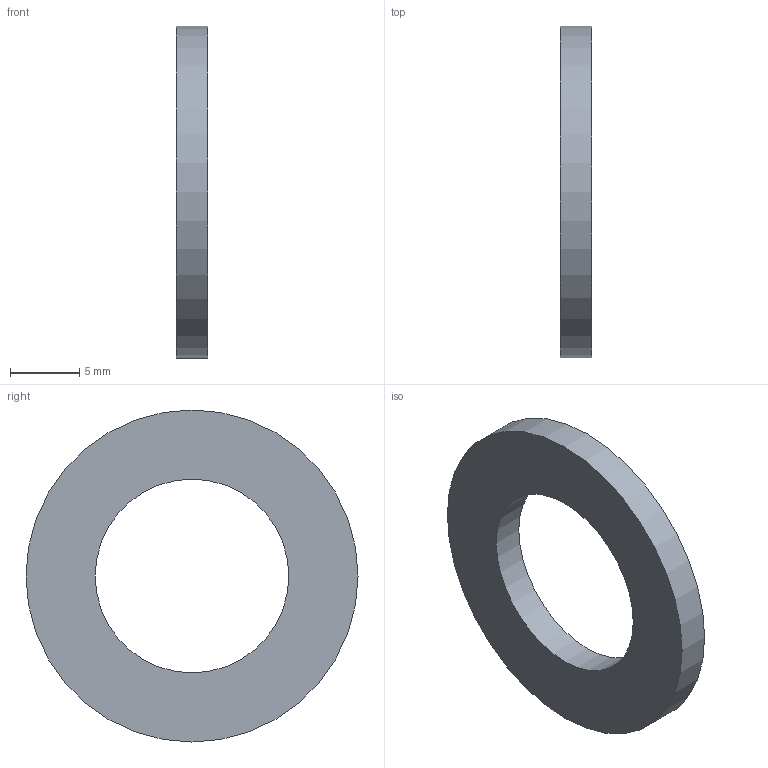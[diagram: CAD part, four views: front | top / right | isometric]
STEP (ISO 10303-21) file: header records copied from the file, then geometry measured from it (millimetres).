
FILE_DESCRIPTION(/* description */ ('평면 와셔'),/* implementation_level */ '2;1');
FILE_NAME(/* name */ '',/* time_stamp */ '2024-08-29T13:11:11+09:00',/* author */ ('jhkim'),/* organization */ (''),/* preprocessor_version */ 'ST-DEVELOPER v20',/* originating_system */ 'Autodesk Inventor 2025',/* authorisation */ '');
FILE_SCHEMA (('AUTOMOTIVE_DESIGN { 1 0 10303 214 3 1 1 }'));
Length unit declared in the file: millimetre
Products named in the file (1): 평와셔 M12
Bounding box: 2.3 x 24 x 24 mm (x, y, z)
Volume: 686.4 mm3; surface area: 871.5 mm2
Topology: 1 solids, 1 shells, 4 faces, 6 edges, 4 vertices
Faces by surface type: cylinder 2, plane 2
Full cylindrical faces by diameter (mm): 14 x1, 24 x1
Entity records: 141 total; most frequent: DIRECTION 20, CARTESIAN_POINT 15, ORIENTED_EDGE 12, AXIS2_PLACEMENT_3D 9, EDGE_LOOP 6, EDGE_CURVE 6, FACE_OUTER_BOUND 4, CIRCLE 4
